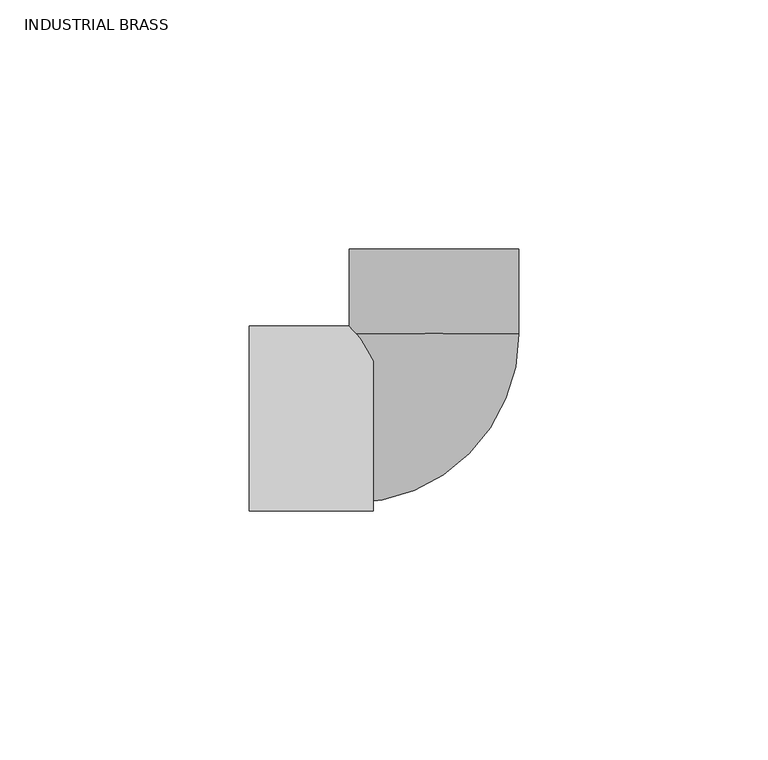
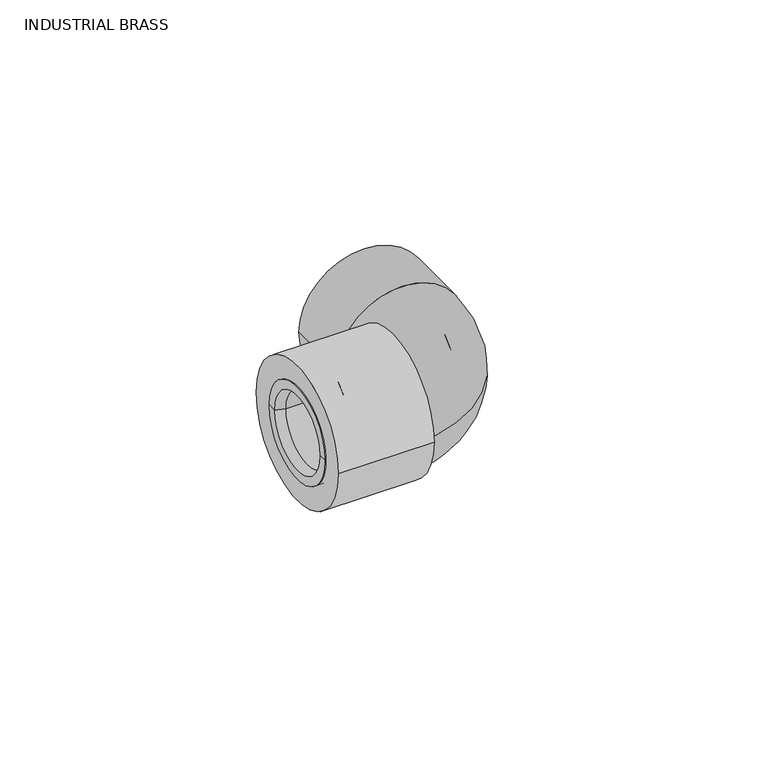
"""IFC4 building model written with IfcOpenShell, lengths in millimetres: valve geometry, Aquatherm - Elbow Transition PPR to F NPT : INDUSTRIAL BRASS."""

from ifc_helpers import new_model, si_unit, point, frame, origin, origin_2d, place, context, project, spatial, polyline, circle_curve, ellipse_curve, trimmed, segment, composite_curve, outline, extrude, source, transform, mapped, element, save
from ifc_brep_helpers import plane_surface, cylinder_surface, revolved_surface, advanced_brep


def industrial_brass_7b500a47(model_context):
    return source(origin(), model_context, "Body", "SolidModel", [
        advanced_brep(
        [(-24.384, -9.525, 0.0), (-24.384, 9.525, 0.0), (-34.5043125, 9.525, 0.0), (-34.5043125, -9.525, 0.0), (-24.384, -10.31875, 0.0), (-24.384, 10.31875, 0.0), (-21.209, -10.31875, 0.0), (-21.209, 10.31875, 0.0), (-21.209, -6.35, 0.0), (-21.209, 6.35, 0.0), (-18.034, -6.35, 0.0), (-18.034, 6.35, 0.0), (-18.034, -12.7, 0.0), (-18.034, 12.7, 0.0), (-37.084, -12.7, 0.0), (-37.084, 12.7, 0.0), (-37.084, -10.31875, 0.0), (-37.084, 10.31875, 0.0)],
        [
            (0, 1, circle_curve(frame((-24.384, 0.0, 0.0), z_axis=(1.0, 0.0, 0.0), x_axis=(0.0, 1.0, 0.0)), 9.525)),
            (1, 2),
            (2, 3, circle_curve(frame((-34.5043125, 0.0, 0.0), z_axis=(-1.0, 0.0, 0.0), x_axis=(0.0, 1.0, 0.0)), 9.525)),
            (3, 0),
            (1, 0, circle_curve(frame((-24.384, 0.0, 0.0), z_axis=(1.0, 0.0, 0.0), x_axis=(0.0, 1.0, 0.0)), 9.525)),
            (3, 2, circle_curve(frame((-34.5043125, 0.0, 0.0), z_axis=(-1.0, 0.0, 0.0), x_axis=(0.0, 1.0, 0.0)), 9.525)),
            (4, 5, circle_curve(frame((-24.384, 0.0, 0.0), z_axis=(1.0, 0.0, 0.0), x_axis=(0.0, 1.0, 0.0)), 10.31875)),
            (5, 1),
            (0, 4),
            (5, 4, circle_curve(frame((-24.384, 0.0, 0.0), z_axis=(1.0, 0.0, 0.0), x_axis=(0.0, 1.0, 0.0)), 10.31875)),
            (6, 7, circle_curve(frame((-21.209, 0.0, 0.0), z_axis=(1.0, 0.0, 0.0), x_axis=(0.0, 1.0, 0.0)), 10.31875)),
            (7, 5),
            (4, 6),
            (7, 6, circle_curve(frame((-21.209, 0.0, 0.0), z_axis=(1.0, 0.0, 0.0), x_axis=(0.0, 1.0, 0.0)), 10.31875)),
            (8, 9, circle_curve(frame((-21.209, 0.0, 0.0), z_axis=(1.0, 0.0, 0.0), x_axis=(0.0, 1.0, 0.0)), 6.35)),
            (9, 7),
            (6, 8),
            (9, 8, circle_curve(frame((-21.209, 0.0, 0.0), z_axis=(1.0, 0.0, 0.0), x_axis=(0.0, 1.0, 0.0)), 6.35)),
            (10, 11, circle_curve(frame((-18.034, 0.0, 0.0), z_axis=(1.0, 0.0, 0.0), x_axis=(0.0, 1.0, 0.0)), 6.35)),
            (11, 9),
            (8, 10),
            (11, 10, circle_curve(frame((-18.034, 0.0, 0.0), z_axis=(1.0, 0.0, 0.0), x_axis=(0.0, 1.0, 0.0)), 6.35)),
            (12, 13, circle_curve(frame((-18.034, 0.0, 0.0), z_axis=(1.0, 0.0, 0.0), x_axis=(0.0, 1.0, 0.0)), 12.7)),
            (13, 11),
            (10, 12),
            (13, 12, circle_curve(frame((-18.034, 0.0, 0.0), z_axis=(1.0, 0.0, 0.0), x_axis=(0.0, 1.0, 0.0)), 12.7)),
            (14, 15, circle_curve(frame((-37.084, 0.0, 0.0), z_axis=(1.0, 0.0, 0.0), x_axis=(0.0, 1.0, 0.0)), 12.7)),
            (15, 13),
            (12, 14),
            (15, 14, circle_curve(frame((-37.084, 0.0, 0.0), z_axis=(1.0, 0.0, 0.0), x_axis=(0.0, 1.0, 0.0)), 12.7)),
            (16, 17, circle_curve(frame((-37.084, 0.0, 0.0), z_axis=(1.0, 0.0, 0.0), x_axis=(0.0, 1.0, 0.0)), 10.31875)),
            (17, 15),
            (14, 16),
            (17, 16, circle_curve(frame((-37.084, 0.0, 0.0), z_axis=(1.0, 0.0, 0.0), x_axis=(0.0, 1.0, 0.0)), 10.31875)),
            (2, 17),
            (16, 3),
        ],
        [
            revolved_surface(polyline([(-34.5043125, 9.525, 0.0), (-24.384, 9.525, 0.0)]), (-38.9172251, 0.0, 0.0), (-1.0, 0.0, 0.0)),
            plane_surface(frame((-24.384, 0.0, 0.0), z_axis=(1.0, 0.0, 0.0), x_axis=(0.0, 1.0, 0.0))),
            revolved_surface(polyline([(-24.384, 10.31875, 0.0), (-21.209, 10.31875, 0.0)]), (-38.9172251, 0.0, 0.0), (-1.0, 0.0, 0.0)),
            plane_surface(frame((-21.209, 0.0, 0.0), z_axis=(-1.0, 0.0, 0.0), x_axis=(0.0, 1.0, 0.0))),
            revolved_surface(polyline([(-21.209, 6.35, 0.0), (-18.034, 6.35, 0.0)]), (-38.9172251, 0.0, 0.0), (-1.0, 0.0, 0.0)),
            plane_surface(frame((-18.034, 0.0, 0.0), z_axis=(1.0, 0.0, 0.0), x_axis=(0.0, 1.0, 0.0))),
            cylinder_surface(frame((-38.9172251, 0.0, 0.0), z_axis=(-1.0, 0.0, 0.0), x_axis=(0.0, 1.0, 0.0)), 12.7),
            plane_surface(frame((-37.084, 0.0, 0.0), z_axis=(-1.0, 0.0, 0.0), x_axis=(0.0, 1.0, 0.0))),
            revolved_surface(polyline([(-37.084, 10.31875, 0.0), (-34.5043125, 9.525, 0.0)]), (-38.9172251, 0.0, 0.0), (-1.0, 0.0, 0.0)),
        ],
        [
            (0, [[1, 2, 3, 4]]),
            (0, [[5, -4, 6, -2]]),
            (1, [[7, 8, -1, 9]]),
            (1, [[10, -9, -5, -8]]),
            (2, [[11, 12, -7, 13]]),
            (2, [[14, -13, -10, -12]]),
            (3, [[15, 16, -11, 17]]),
            (3, [[18, -17, -14, -16]]),
            (4, [[19, 20, -15, 21]]),
            (4, [[22, -21, -18, -20]]),
            (5, [[23, 24, -19, 25]]),
            (5, [[26, -25, -22, -24]]),
            (6, [[27, 28, -23, 29]]),
            (6, [[30, -29, -26, -28]]),
            (7, [[31, 32, -27, 33]]),
            (7, [[34, -33, -30, -32]]),
            (8, [[-3, 35, -31, 36]]),
            (8, [[-6, -36, -34, -35]]),
        ],
    ),
        advanced_brep(
        [(17.018, 17.018, 0.0), (-17.018, 17.018, 0.0), (9.525, 17.018, 0.0), (-9.525, 17.018, 0.0), (-17.018, -17.018, 0.0), (-17.018, -9.525, 0.0), (-17.018, 9.525, 0.0)],
        [
            (0, 1, circle_curve(frame((0.0, 17.018, 0.0), z_axis=(0.0, 1.0, 0.0), x_axis=(-1.0, 0.0, 0.0)), 17.018)),
            (1, 0, circle_curve(frame((0.0, 17.018, 0.0), z_axis=(0.0, 1.0, 0.0), x_axis=(-1.0, 0.0, 0.0)), 17.018)),
            (2, 3, circle_curve(frame((0.0, 17.018, 0.0), z_axis=(0.0, -1.0, 0.0), x_axis=(-1.0, 0.0, 0.0)), 9.525)),
            (3, 2, circle_curve(frame((0.0, 17.018, 0.0), z_axis=(0.0, -1.0, 0.0), x_axis=(-1.0, 0.0, 0.0)), 9.525)),
            (4, 1, circle_curve(frame((-17.018, 0.0, 0.0), z_axis=(-1.0, 0.0, 0.0), x_axis=(0.0, 1.0, 0.0)), 17.018)),
            (1, 4, circle_curve(frame((-17.018, 0.0, 0.0), z_axis=(-1.0, 0.0, 0.0), x_axis=(0.0, 1.0, 0.0)), 17.018)),
            (5, 6, circle_curve(frame((-17.018, 0.0, 0.0), z_axis=(1.0, 0.0, 0.0), x_axis=(0.0, 1.0, 0.0)), 9.525)),
            (6, 5, circle_curve(frame((-17.018, 0.0, 0.0), z_axis=(1.0, 0.0, 0.0), x_axis=(0.0, 1.0, 0.0)), 9.525)),
            (0, 4, circle_curve(frame((-17.018, 17.018, 0.0), z_axis=(0.0, 0.0, -1.0), x_axis=(1.0, 0.0, 0.0)), 34.036)),
            (2, 5, circle_curve(frame((-17.018, 17.018, 0.0), z_axis=(0.0, 0.0, -1.0), x_axis=(1.0, 0.0, 0.0)), 26.543)),
            (6, 3, circle_curve(frame((-17.018, 17.018, 0.0), z_axis=(0.0, 0.0, 1.0), x_axis=(1.0, 0.0, 0.0)), 7.493)),
        ],
        [
            plane_surface(frame((-17.018, 17.018, 41.9103543), z_axis=(0.0, 1.0, 0.0), x_axis=(1.0, 0.0, 0.0))),
            plane_surface(frame((-17.018, 17.018, 41.9103543), z_axis=(-1.0, 0.0, 0.0), x_axis=(0.0, -1.0, 0.0))),
            revolved_surface(trimmed(ellipse_curve(frame((0.0, 17.018, 0.0), z_axis=(0.0, 1.0, 0.0), x_axis=(-1.0, 0.0, 0.0)), 17.018, 17.018), [point((17.018, 17.018, 0.0))], [point((-17.018, 17.018, 0.0))], True, "CARTESIAN"), (-17.018, 17.018, 41.9103543), (0.0, 0.0, -1.0)),
            revolved_surface(trimmed(ellipse_curve(frame((0.0, 17.018, 0.0), z_axis=(0.0, 1.0, 0.0), x_axis=(-1.0, 0.0, 0.0)), 17.018, 17.018), [point((-17.018, 17.018, 0.0))], [point((17.018, 17.018, 0.0))], True, "CARTESIAN"), (-17.018, 17.018, 41.9103543), (0.0, 0.0, -1.0)),
            revolved_surface(trimmed(ellipse_curve(frame((0.0, 17.018, 0.0), z_axis=(0.0, -1.0, 0.0), x_axis=(-1.0, 0.0, 0.0)), 9.525, 9.525), [point((9.525, 17.018, 0.0))], [point((-9.525, 17.018, 0.0))], True, "CARTESIAN"), (-17.018, 17.018, 41.9103543), (0.0, 0.0, -1.0)),
            revolved_surface(trimmed(ellipse_curve(frame((0.0, 17.018, 0.0), z_axis=(0.0, -1.0, 0.0), x_axis=(-1.0, 0.0, 0.0)), 9.525, 9.525), [point((-9.525, 17.018, 0.0))], [point((9.525, 17.018, 0.0))], True, "CARTESIAN"), (-17.018, 17.018, 41.9103543), (0.0, 0.0, -1.0)),
        ],
        [
            (0, [[1, 2], [3, 4]]),
            (1, [[5, 6], [7, 8]]),
            (2, [[-1, 9, -6]]),
            (3, [[-2, -5, -9]]),
            (4, [[-3, 10, -8, 11]]),
            (5, [[-4, -11, -7, -10]]),
        ],
    ),
        extrude(outline(composite_curve([segment(trimmed(circle_curve(origin_2d(), 17.018), [point((0.0, 17.018))], [point((0.0, -17.018))], False, "CARTESIAN"), True, "CONTINUOUS"), segment(trimmed(circle_curve(origin_2d(), 17.018), [point((0.0, -17.018))], [point((0.0, 17.018))], False, "CARTESIAN"), True, "CONTINUOUS")], self_intersect=False), holes=[composite_curve([segment(trimmed(circle_curve(origin_2d(), 12.446), [point((0.0, 12.446))], [point((0.0, -12.446))], True, "CARTESIAN"), True, "CONTINUOUS"), segment(trimmed(circle_curve(origin_2d(), 12.446), [point((0.0, -12.446))], [point((0.0, 12.446))], True, "CARTESIAN"), True, "CONTINUOUS")], self_intersect=False)]), frame((0.0, 17.018, 0.0), z_axis=(0.0, 1.0, 0.0), x_axis=(0.0, 0.0, 1.0)), (0.0, 0.0, 1.0), 17.018),
        extrude(outline(composite_curve([segment(trimmed(circle_curve(origin_2d(), 18.542), [point((-18.542, 0.0))], [point((18.542, 0.0))], False, "CARTESIAN"), True, "CONTINUOUS"), segment(trimmed(circle_curve(origin_2d(), 18.542), [point((18.542, 0.0))], [point((-18.542, 0.0))], False, "CARTESIAN"), True, "CONTINUOUS")], self_intersect=False), holes=[composite_curve([segment(trimmed(circle_curve(origin_2d(), 12.7), [point((-12.7, 0.0))], [point((12.7, 0.0))], True, "CARTESIAN"), True, "CONTINUOUS"), segment(trimmed(circle_curve(origin_2d(), 12.7), [point((12.7, 0.0))], [point((-12.7, 0.0))], True, "CARTESIAN"), True, "CONTINUOUS")], self_intersect=False)]), frame((-37.084, 0.0, 0.0), z_axis=(1.0, 0.0, 0.0), x_axis=(0.0, 1.0, 0.0)), (0.0, 0.0, 1.0), 24.892),
    ])


if __name__ == "__main__":
    model = new_model("IFC4")
    model_context = context("Model", 3, world=origin())
    ifc_project = project(units=[si_unit("LENGTHUNIT", "METRE", prefix="MILLI")], contexts=[model_context])
    site = spatial("IfcSite", under=ifc_project)
    building = spatial("IfcBuilding", under=site)
    placement = place(None, origin())
    industrial_brass_shape = industrial_brass_7b500a47(model_context)
    element("IfcValve", 1, ObjectType="Aquatherm - Elbow Transition PPR to F NPT : INDUSTRIAL BRASS", at=placement, inside=building, context=model_context, shape_type="MappedRepresentation", body=[
        mapped(industrial_brass_shape, transform((0.0, 0.0, 0.0), x_axis=(1.0, 0.0, 0.0), y_axis=(0.0, 1.0, 0.0), z_axis=(0.0, 0.0, 1.0))),
    ])
    save(model, "model.ifc")
